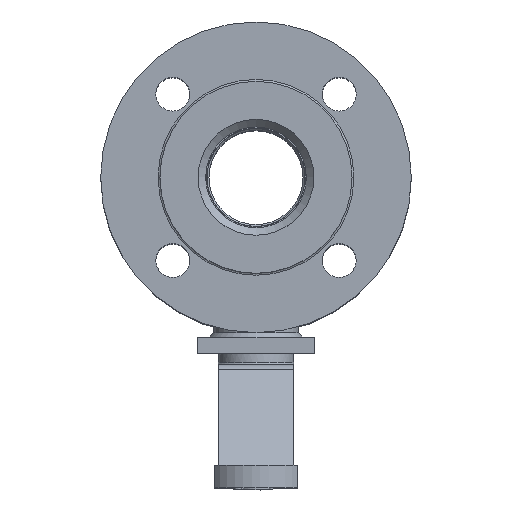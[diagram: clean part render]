
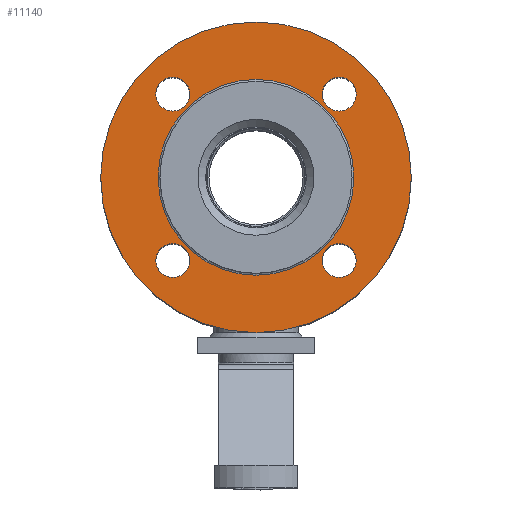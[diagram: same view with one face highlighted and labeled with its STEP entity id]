
A CAD part, top view. The second image highlights one B-rep face of the part: STEP entity #11140.
In plain terms, the highlighted planar face has unit normal (0, 0, 1).
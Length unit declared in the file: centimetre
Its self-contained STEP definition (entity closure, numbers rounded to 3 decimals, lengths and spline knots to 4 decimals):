
#238=FACE_BOUND('',#1745,.T.);
#239=FACE_BOUND('',#1746,.T.);
#240=FACE_BOUND('',#1747,.T.);
#241=FACE_BOUND('',#1748,.T.);
#242=FACE_BOUND('',#1749,.T.);
#982=FACE_OUTER_BOUND('',#1744,.T.);
#1744=EDGE_LOOP('',(#9332));
#1745=EDGE_LOOP('',(#9333));
#1746=EDGE_LOOP('',(#9334));
#1747=EDGE_LOOP('',(#9335));
#1748=EDGE_LOOP('',(#9336));
#1749=EDGE_LOOP('',(#9337));
#4231=CIRCLE('',#11997,8.25);
#4233=CIRCLE('',#12000,0.9);
#4234=CIRCLE('',#12001,0.9);
#4235=CIRCLE('',#12002,0.9);
#4236=CIRCLE('',#12003,0.9);
#4237=CIRCLE('',#12004,5.2);
#5190=VERTEX_POINT('',#18657);
#5192=VERTEX_POINT('',#18662);
#5193=VERTEX_POINT('',#18664);
#5194=VERTEX_POINT('',#18666);
#5195=VERTEX_POINT('',#18668);
#5196=VERTEX_POINT('',#18670);
#6594=EDGE_CURVE('',#5190,#5190,#4231,.T.);
#6596=EDGE_CURVE('',#5192,#5192,#4233,.T.);
#6597=EDGE_CURVE('',#5193,#5193,#4234,.T.);
#6598=EDGE_CURVE('',#5194,#5194,#4235,.T.);
#6599=EDGE_CURVE('',#5195,#5195,#4236,.T.);
#6600=EDGE_CURVE('',#5196,#5196,#4237,.T.);
#9332=ORIENTED_EDGE('',*,*,#6594,.F.);
#9333=ORIENTED_EDGE('',*,*,#6596,.T.);
#9334=ORIENTED_EDGE('',*,*,#6597,.T.);
#9335=ORIENTED_EDGE('',*,*,#6598,.T.);
#9336=ORIENTED_EDGE('',*,*,#6599,.T.);
#9337=ORIENTED_EDGE('',*,*,#6600,.F.);
#9983=PLANE('',#11999);
#11140=ADVANCED_FACE('',(#982,#238,#239,#240,#241,#242),#9983,.F.);
#11997=AXIS2_PLACEMENT_3D('',#18658,#14728,#14729);
#11999=AXIS2_PLACEMENT_3D('',#18661,#14732,#14733);
#12000=AXIS2_PLACEMENT_3D('',#18663,#14734,#14735);
#12001=AXIS2_PLACEMENT_3D('',#18665,#14736,#14737);
#12002=AXIS2_PLACEMENT_3D('',#18667,#14738,#14739);
#12003=AXIS2_PLACEMENT_3D('',#18669,#14740,#14741);
#12004=AXIS2_PLACEMENT_3D('',#18671,#14742,#14743);
#14728=DIRECTION('center_axis',(0.,0.,
-1.));
#14729=DIRECTION('ref_axis',(0.,1.,0.));
#14732=DIRECTION('center_axis',(0.,0.,
-1.));
#14733=DIRECTION('ref_axis',(0.,1.,0.));
#14734=DIRECTION('center_axis',(0.,0.,
-1.));
#14735=DIRECTION('ref_axis',(-1.,0.,0.));
#14736=DIRECTION('center_axis',(0.,0.,
-1.));
#14737=DIRECTION('ref_axis',(0.,1.,0.));
#14738=DIRECTION('center_axis',(0.,0.,
-1.));
#14739=DIRECTION('ref_axis',(1.,0.,0.));
#14740=DIRECTION('center_axis',(0.,0.,
-1.));
#14741=DIRECTION('ref_axis',(0.,-1.,0.));
#14742=DIRECTION('center_axis',(0.,0.,
1.));
#14743=DIRECTION('ref_axis',(0.,1.,0.));
#18657=CARTESIAN_POINT('',(-1.9596,-8.0955,9.4981));
#18658=CARTESIAN_POINT('Origin',(-1.9596,0.1545,9.4981));
#18661=CARTESIAN_POINT('Origin',(-1.9596,0.1545,9.4981));
#18662=CARTESIAN_POINT('',(3.3598,-4.2649,9.4981));
#18663=CARTESIAN_POINT('Origin',(2.4598,-4.2649,9.4981));
#18664=CARTESIAN_POINT('',(-6.379,-5.1649,9.4981));
#18665=CARTESIAN_POINT('Origin',(-6.379,-4.2649,9.4981));
#18666=CARTESIAN_POINT('',(-7.279,4.5739,9.4981));
#18667=CARTESIAN_POINT('Origin',(-6.379,4.5739,9.4981));
#18668=CARTESIAN_POINT('',(2.4598,5.4739,9.4981));
#18669=CARTESIAN_POINT('Origin',(2.4598,4.5739,9.4981));
#18670=CARTESIAN_POINT('',(-1.9596,-5.0455,9.4981));
#18671=CARTESIAN_POINT('Origin',(-1.9596,0.1545,9.4981));
